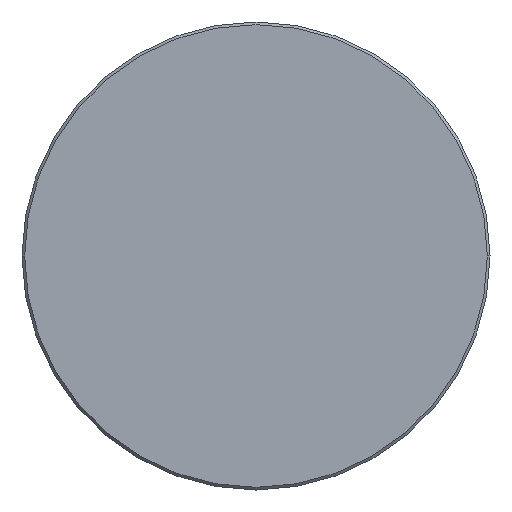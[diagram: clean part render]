
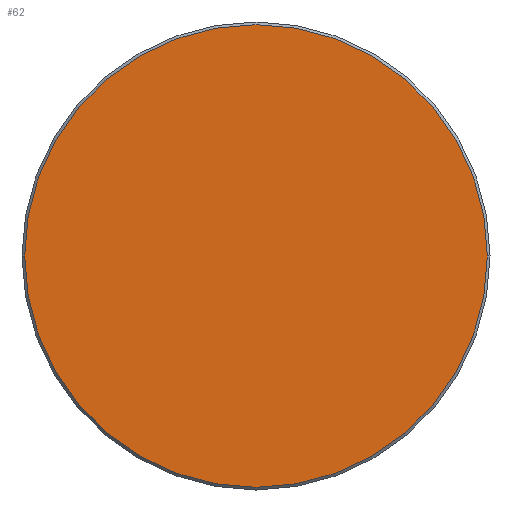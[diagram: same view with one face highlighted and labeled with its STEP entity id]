
A CAD part, left-side view. The second image highlights one B-rep face of the part: STEP entity #62.
In plain terms, the highlighted planar face has unit normal (-1, 0, 0).
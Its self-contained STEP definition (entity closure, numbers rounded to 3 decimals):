
#62 = ADVANCED_FACE ( 'NONE', ( #203 ), #200, .T. ) ;
#94 = EDGE_CURVE ( 'NONE', #1468, #1483, #845, .T. ) ;
#113 = EDGE_CURVE ( 'NONE', #1483, #1468, #810, .T. ) ;
#196 = DIRECTION ( 'NONE',  ( 0., -1., 0. ) ) ;
#197 = DIRECTION ( 'NONE',  ( -1., 0., 0. ) ) ;
#200 = PLANE ( 'NONE',  #1126 ) ;
#203 = FACE_OUTER_BOUND ( 'NONE', #504, .T. ) ;
#219 = CARTESIAN_POINT ( 'NONE',  ( -132., 0., 0. ) ) ;
#303 = ORIENTED_EDGE ( 'NONE', *, *, #113, .T. ) ;
#504 = EDGE_LOOP ( 'NONE', ( #303, #629 ) ) ;
#629 = ORIENTED_EDGE ( 'NONE', *, *, #94, .T. ) ;
#806 = AXIS2_PLACEMENT_3D ( 'NONE', #1276, #1275, #1274 ) ;
#810 = CIRCLE ( 'NONE', #806, 17.3 ) ;
#842 = AXIS2_PLACEMENT_3D ( 'NONE', #1362, #1361, #1360 ) ;
#845 = CIRCLE ( 'NONE', #842, 17.3 ) ;
#946 = CARTESIAN_POINT ( 'NONE',  ( -132., 17.3, 0. ) ) ;
#959 = CARTESIAN_POINT ( 'NONE',  ( -132., -17.3, 0. ) ) ;
#1126 = AXIS2_PLACEMENT_3D ( 'NONE', #219, #197, #196 ) ;
#1274 = DIRECTION ( 'NONE',  ( 0., -1., 0. ) ) ;
#1275 = DIRECTION ( 'NONE',  ( -1., 0., 0. ) ) ;
#1276 = CARTESIAN_POINT ( 'NONE',  ( -132., 0., 0. ) ) ;
#1360 = DIRECTION ( 'NONE',  ( 0., -1., 0. ) ) ;
#1361 = DIRECTION ( 'NONE',  ( -1., 0., 0. ) ) ;
#1362 = CARTESIAN_POINT ( 'NONE',  ( -132., 0., 0. ) ) ;
#1468 = VERTEX_POINT ( 'NONE', #959 ) ;
#1483 = VERTEX_POINT ( 'NONE', #946 ) ;
